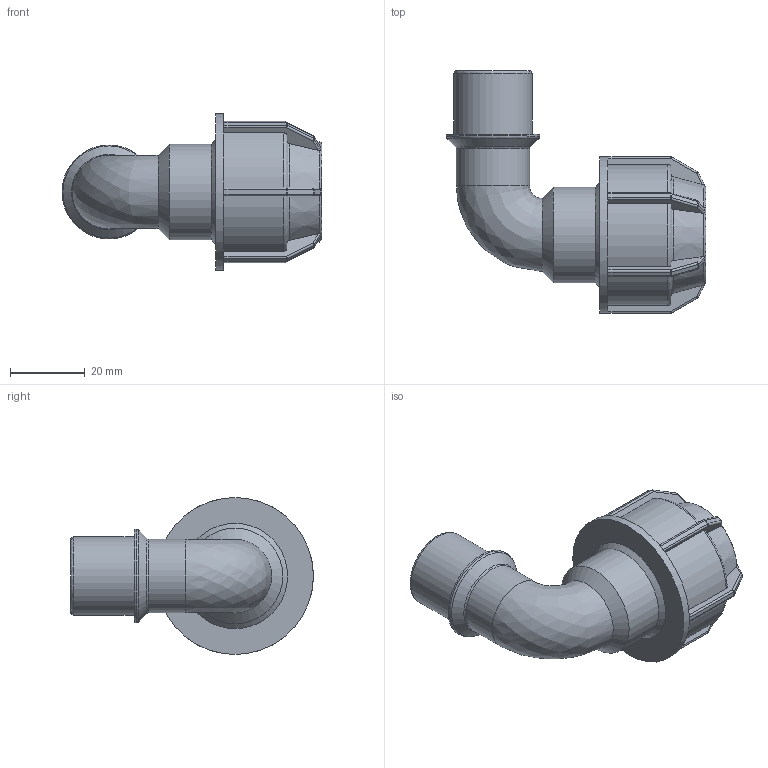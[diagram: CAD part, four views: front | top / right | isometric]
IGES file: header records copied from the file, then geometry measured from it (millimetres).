
Global section: file name: 148500016005.ipt; native system: Autodesk Inventor 2015; preprocessor: unknown; author: KIM; date: 20180409.131239; units: millimetre
Bounding box: 69.57 x 65 x 42 mm (x, y, z)
Volume: 33111 mm3; surface area: 15577 mm2
Topology: 1 solids, 1 shells, 215 faces, 530 edges, 310 vertices
Faces by surface type: plane 100, cylinder 59, sphere 24, revolution 23, cone 9
Full cylindrical faces by diameter (mm): 19.593 x1, 20.955 x1, 25.146 x1, 25.6 x1, 42 x1
